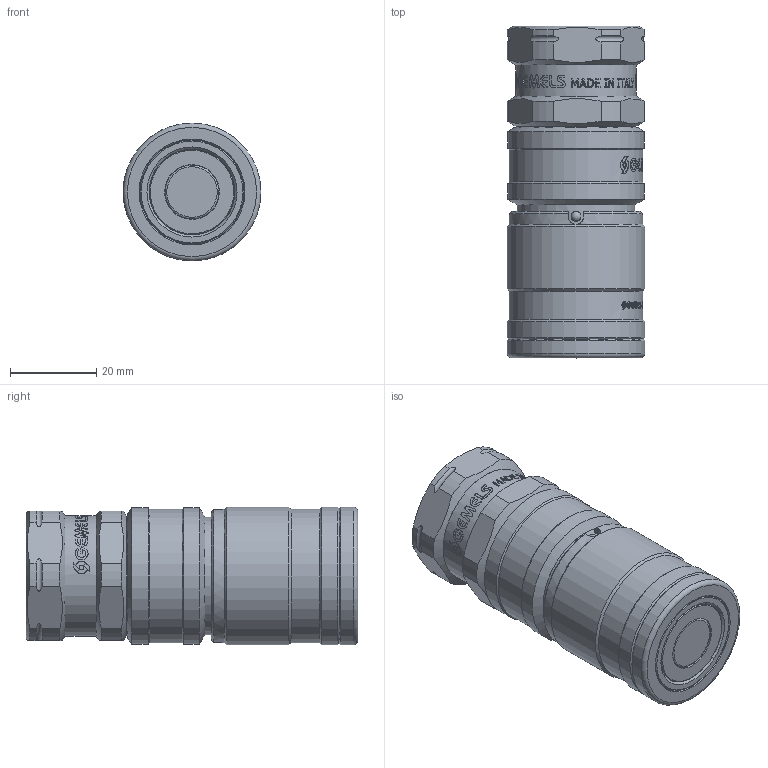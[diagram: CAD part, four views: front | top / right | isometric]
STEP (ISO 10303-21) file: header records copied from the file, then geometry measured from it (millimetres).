
FILE_DESCRIPTION(/* description */ (''),/* implementation_level */ '2;1');
FILE_NAME(/* name */ 'NC06N020000.stp',/* time_stamp */ '2024-08-09T15:12:32+02:00',/* author */ ('nicholas.facchinetti'),/* organization */ (''),/* preprocessor_version */ 'ST-DEVELOPER v19.2',/* originating_system */ 'Autodesk Inventor 2024',/* authorisation */ '');
FILE_SCHEMA (('AUTOMOTIVE_DESIGN { 1 0 10303 214 3 1 1 }'));
Products named in the file (1): Parte11
Bounding box: 32 x 77.04 x 32 mm (x, y, z)
Volume: 55183.7 mm3; surface area: 14309.3 mm2
Topology: 1 solids, 1 shells, 1620 faces, 4621 edges, 3070 vertices
Faces by surface type: bspline 1060, plane 402, cylinder 118, cone 26, torus 12, sphere 2
Full cylindrical faces by diameter (mm): 2.3 x2, 12.7 x1, 19.8 x1, 19.9 x1, 24 x1, 24.15 x1, 27.3 x2, 27.5 x1, 28 x1, 31 x1, 31.1 x1, 31.8 x2, 32 x3
Entity records: 70298 total; most frequent: CARTESIAN_POINT 33490, ORIENTED_EDGE 9242, EDGE_CURVE 4621, DIRECTION 4047, VERTEX_POINT 3070, B_SPLINE_CURVE_WITH_KNOTS 2224, LINE 1805, VECTOR 1805
